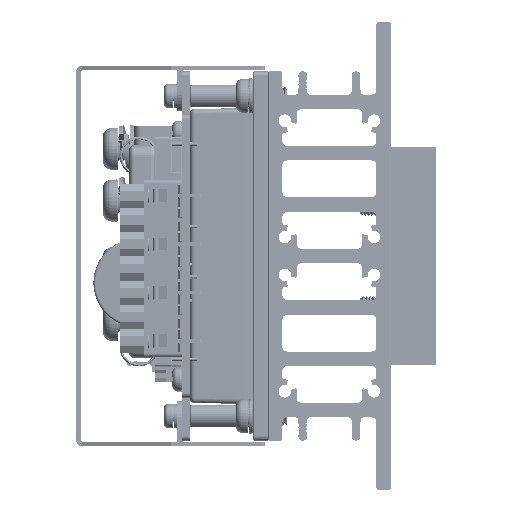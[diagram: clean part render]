
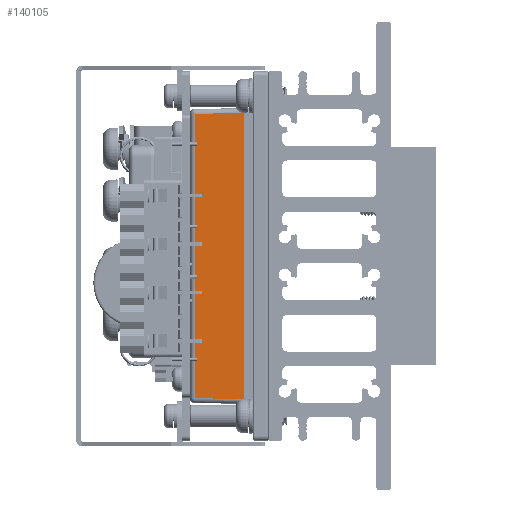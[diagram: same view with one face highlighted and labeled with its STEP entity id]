
A CAD part, left-side view. The second image highlights one B-rep face of the part: STEP entity #140105.
In plain terms, the highlighted planar face has unit normal (-1, 0.018, 0).
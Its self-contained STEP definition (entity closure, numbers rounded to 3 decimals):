
#12889 = CARTESIAN_POINT ( 'NONE',  ( -6.117, 18.117, -30.306 ) ) ;
#13016 = DIRECTION ( 'NONE',  ( 0.017, 1., 0. ) ) ;
#45026 = VECTOR ( 'NONE', #150488, 1000. ) ;
#50010 = EDGE_CURVE ( 'NONE', #198586, #195513, #252406, .T. ) ;
#51328 = ORIENTED_EDGE ( 'NONE', *, *, #234622, .T. ) ;
#53400 = FACE_OUTER_BOUND ( 'NONE', #185019, .T. ) ;
#53974 = CARTESIAN_POINT ( 'NONE',  ( -6.294, 8., 30.5 ) ) ;
#55185 = EDGE_CURVE ( 'NONE', #195513, #250368, #167192, .T. ) ;
#70199 = CARTESIAN_POINT ( 'NONE',  ( -6.117, 18.117, -29.324 ) ) ;
#72033 = CIRCLE ( 'NONE', #107556, 1. ) ;
#72513 = CARTESIAN_POINT ( 'NONE',  ( -5.294, 8., 29.5 ) ) ;
#81226 = CARTESIAN_POINT ( 'NONE',  ( -6.294, 8., 29.5 ) ) ;
#96263 = ORIENTED_EDGE ( 'NONE', *, *, #131171, .T. ) ;
#98282 = CARTESIAN_POINT ( 'NONE',  ( -6.117, 18.117, 29.324 ) ) ;
#107556 = AXIS2_PLACEMENT_3D ( 'NONE', #72513, #183707, #195353 ) ;
#113231 = DIRECTION ( 'NONE',  ( -1., 0.017, 0. ) ) ;
#118706 = CARTESIAN_POINT ( 'NONE',  ( -6.294, 8., 30.5 ) ) ;
#127678 = ORIENTED_EDGE ( 'NONE', *, *, #50010, .T. ) ;
#131171 = EDGE_CURVE ( 'NONE', #250368, #170960, #238034, .T. ) ;
#140105 = ADVANCED_FACE ( 'NONE', ( #53400 ), #224431, .T. ) ;
#145325 = CARTESIAN_POINT ( 'NONE',  ( -6.294, 7.983, 29.5 ) ) ;
#150488 = DIRECTION ( 'NONE',  ( -0.017, -1., -0.017 ) ) ;
#151682 = ORIENTED_EDGE ( 'NONE', *, *, #55185, .T. ) ;
#165605 = VERTEX_POINT ( 'NONE', #81226 ) ;
#167192 = LINE ( 'NONE', #12889, #233008 ) ;
#170960 = VERTEX_POINT ( 'NONE', #235843 ) ;
#172248 = VECTOR ( 'NONE', #245829, 1000. ) ;
#183707 = DIRECTION ( 'NONE',  ( 0., 1., 0. ) ) ;
#185019 = EDGE_LOOP ( 'NONE', ( #51328, #196202, #127678, #151682, #96263 ) ) ;
#195353 = DIRECTION ( 'NONE',  ( 0., 0., 1. ) ) ;
#195513 = VERTEX_POINT ( 'NONE', #98282 ) ;
#196202 = ORIENTED_EDGE ( 'NONE', *, *, #267795, .T. ) ;
#198586 = VERTEX_POINT ( 'NONE', #271178 ) ;
#224431 = PLANE ( 'NONE',  #235535 ) ;
#230166 = DIRECTION ( 'NONE',  ( 0.017, 1., -0.017 ) ) ;
#233008 = VECTOR ( 'NONE', #252016, 1000. ) ;
#234622 = EDGE_CURVE ( 'NONE', #170960, #165605, #265373, .T. ) ;
#235535 = AXIS2_PLACEMENT_3D ( 'NONE', #118706, #113231, #13016 ) ;
#235843 = CARTESIAN_POINT ( 'NONE',  ( -6.294, 8., -29.5 ) ) ;
#238034 = LINE ( 'NONE', #258929, #45026 ) ;
#245829 = DIRECTION ( 'NONE',  ( 0., 0., 1. ) ) ;
#250368 = VERTEX_POINT ( 'NONE', #70199 ) ;
#252016 = DIRECTION ( 'NONE',  ( 0., 0., -1. ) ) ;
#252406 = LINE ( 'NONE', #145325, #268929 ) ;
#258929 = CARTESIAN_POINT ( 'NONE',  ( -6.276, 9.047, -29.482 ) ) ;
#265373 = LINE ( 'NONE', #53974, #172248 ) ;
#267795 = EDGE_CURVE ( 'NONE', #165605, #198586, #72033, .T. ) ;
#268929 = VECTOR ( 'NONE', #230166, 1000. ) ;
#271178 = CARTESIAN_POINT ( 'NONE',  ( -6.294, 8., 29.5 ) ) ;
